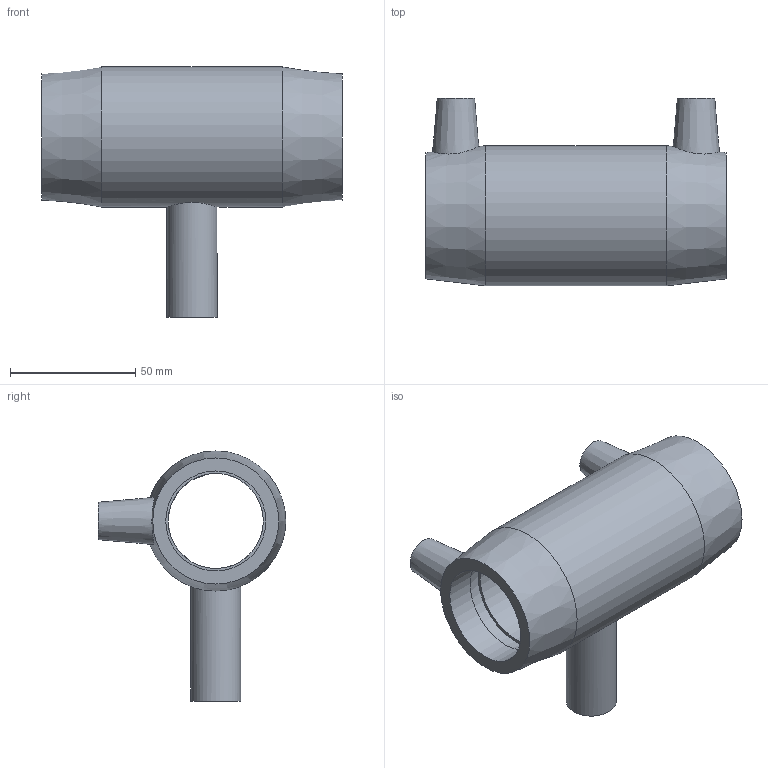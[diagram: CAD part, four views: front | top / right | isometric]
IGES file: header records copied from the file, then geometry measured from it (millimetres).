
Global section: file name: 491404040020.ipt; native system: Autodesk Inventor 2015; preprocessor: unknown; author: KIM; date: 20171106.093837; units: millimetre
Bounding box: 120 x 75 x 100 mm (x, y, z)
Volume: 147201.9 mm3; surface area: 46049.6 mm2
Topology: 1 solids, 1 shells, 31 faces, 72 edges, 52 vertices
Faces by surface type: plane 13, revolution 10, cylinder 4, cone 4
Full cylindrical faces by diameter (mm): 4 x2, 20 x1, 56 x1
